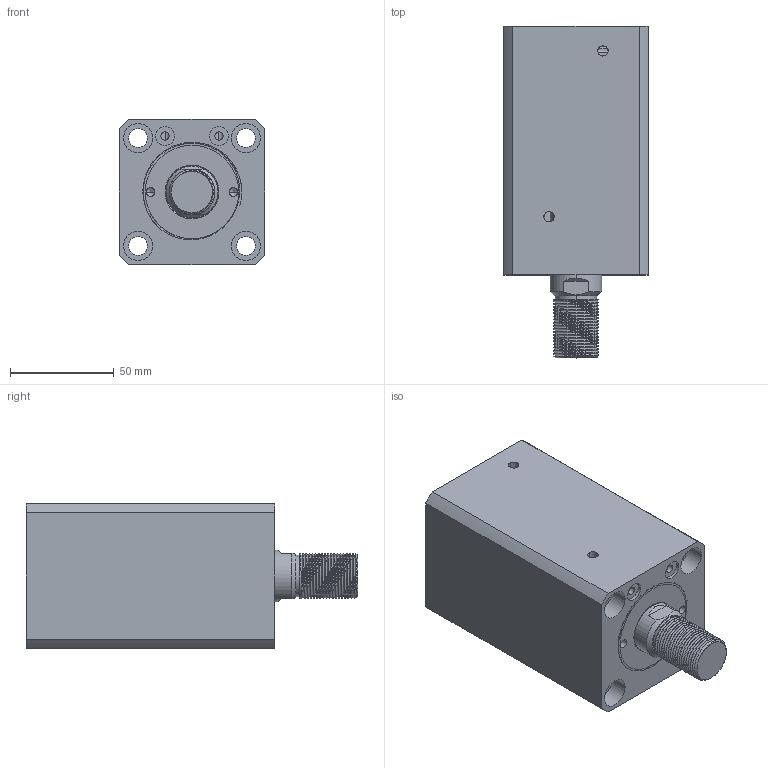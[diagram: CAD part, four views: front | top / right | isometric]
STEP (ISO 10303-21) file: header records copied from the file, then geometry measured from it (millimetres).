
FILE_DESCRIPTION (( 'STEP AP214' ), '1' );
FILE_NAME ('chtb-sdma40x65w_asm.STEP', '2018-06-06T01:42:00', ( 'Windows' ), ( 'Microsoft' ), 'SwSTEP 2.0', 'SolidWorks 2015', '' );
FILE_SCHEMA (( 'AUTOMOTIVE_DESIGN' ));
Length unit declared in the file: millimetre
Products named in the file (4): chtb-sdma40x65w_asm; CHTB-SD40QG; CHTB-SDMA40X65NBT; CHTB-SD40X65WHSG
Assembly tree (3 placements, depth 2):
  chtb-sdma40x65w_asm
    CHTB-SD40X65WHSG
    CHTB-SDMA40X65NBT
    CHTB-SD40QG
Bounding box: 70 x 160 x 70 mm (x, y, z)
Volume: 505492.1 mm3; surface area: 101219.2 mm2
Topology: 3 solids, 4 shells, 203 faces, 545 edges, 363 vertices
Faces by surface type: cylinder 122, plane 40, bspline 16, torus 14, cone 11
Entity records: 13587 total; most frequent: CARTESIAN_POINT 8658, ORIENTED_EDGE 1078, DIRECTION 914, EDGE_CURVE 539, AXIS2_PLACEMENT_3D 378, VERTEX_POINT 363, EDGE_LOOP 240, ADVANCED_FACE 203
